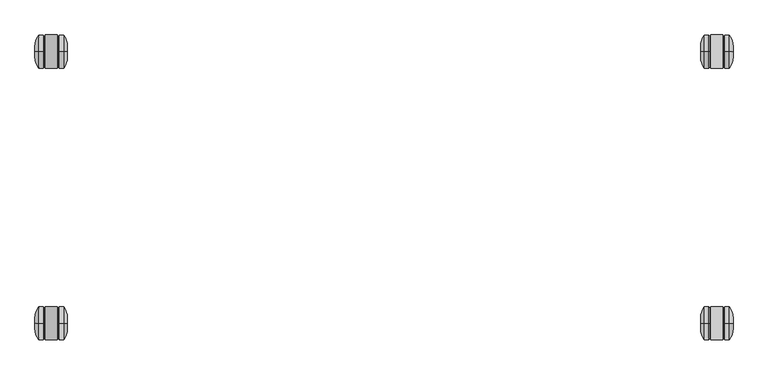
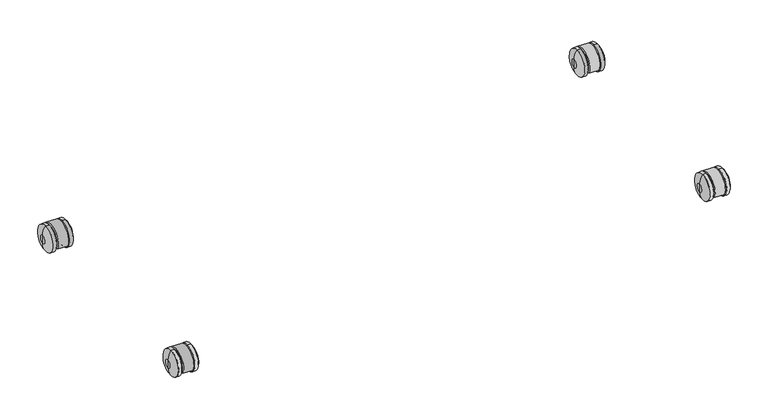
"""IFC4 building model written with IfcOpenShell, lengths in millimetres: furniture geometry, SmithSystem_AM_Table_Education_Elemental_NestAndFold_24D : 24D x 60W."""

from ifc_helpers import new_model, si_unit, point, frame, frame_2d, origin, place, context, project, spatial, polyline, circle_curve, ellipse_curve, trimmed, segment, composite_curve, outline, extrude, source, transform, mapped, element, save
from ifc_brep_helpers import plane_surface, cylinder_surface, revolved_surface, advanced_brep


def furniture_49b3452a(model_context):
    return source(origin(), model_context, "Body", "SolidModel", [
        extrude(outline(composite_curve([segment(trimmed(circle_curve(frame_2d((565.7445313, 34.2990606)), 34.7341), [point((534.3716582, 19.392668))], [point((597.1174044, 19.392668))], False, "CARTESIAN"), True, "CONTINUOUS"), segment(polyline([(597.1174044, 19.392668), (534.3716582, 19.392668)]), True, "CONTINUOUS")], self_intersect=False)), frame((54.6490652, 0.0, 0.0), z_axis=(1.0, 0.0, 0.0), x_axis=(0.0, 1.0, 0.0)), (0.0, 0.0, 1.0), 26.0360428),
        extrude(outline(composite_curve([segment(trimmed(circle_curve(frame_2d((-1.3882813, 34.2990606)), 34.7341), [point((-32.7611544, 19.392668))], [point((29.9845918, 19.392668))], False, "CARTESIAN"), True, "CONTINUOUS"), segment(polyline([(29.9845918, 19.392668), (-32.7611544, 19.392668)]), True, "CONTINUOUS")], self_intersect=False)), frame((54.6490652, 0.0, 0.0), z_axis=(1.0, 0.0, 0.0), x_axis=(0.0, 1.0, 0.0)), (0.0, 0.0, 1.0), 26.0360428),
        extrude(outline(composite_curve([segment(trimmed(circle_curve(frame_2d((565.7445313, 34.2990606)), 34.7341), [point((534.3716582, 19.392668))], [point((597.1174044, 19.392668))], False, "CARTESIAN"), True, "CONTINUOUS"), segment(polyline([(597.1174044, 19.392668), (534.3716582, 19.392668)]), True, "CONTINUOUS")], self_intersect=False)), frame((1443.314892, 0.0, 0.0), z_axis=(1.0, 0.0, 0.0), x_axis=(0.0, 1.0, 0.0)), (0.0, 0.0, 1.0), 26.0360428),
        extrude(outline(composite_curve([segment(trimmed(circle_curve(frame_2d((-1.3882813, 34.2990606)), 34.7341), [point((-32.7611544, 19.392668))], [point((29.9845918, 19.392668))], False, "CARTESIAN"), True, "CONTINUOUS"), segment(polyline([(29.9845918, 19.392668), (-32.7611544, 19.392668)]), True, "CONTINUOUS")], self_intersect=False)), frame((1443.314892, 0.0, 0.0), z_axis=(1.0, 0.0, 0.0), x_axis=(0.0, 1.0, 0.0)), (0.0, 0.0, 1.0), 26.0360428),
        advanced_brep(
        [(1441.7769566, -1.3882813, 34.3697295), (1441.7769566, -1.3882813, 2.4213744), (1441.7769566, -1.3882813, 66.3180847), (1439.6062544, -1.3882813, -0.2937015), (1439.6062544, -1.3882813, 69.0331606), (1430.6015712, -1.3882813, -0.2937015), (1430.6015712, -1.3882813, 69.0331606), (1422.6841685, -1.3882813, 22.7879099), (1422.6841685, -1.3882813, 45.9515492), (1422.6841685, -1.3882813, 34.3697295)],
        [
            (0, 1),
            (1, 2, circle_curve(frame((1441.7769566, -1.3882813, 34.3697295), z_axis=(1.0, 0.0, 0.0), x_axis=(0.0, 0.0, 1.0)), 31.9483552)),
            (2, 0),
            (2, 1, circle_curve(frame((1441.7769566, -1.3882813, 34.3697295), z_axis=(1.0, 0.0, 0.0), x_axis=(0.0, 0.0, 1.0)), 31.9483552)),
            (1, 3),
            (3, 4, circle_curve(frame((1439.6062544, -1.3882813, 34.3697295), z_axis=(1.0, 0.0, 0.0), x_axis=(0.0, 0.0, 1.0)), 34.6634311)),
            (4, 2),
            (4, 3, circle_curve(frame((1439.6062544, -1.3882813, 34.3697295), z_axis=(1.0, 0.0, 0.0), x_axis=(0.0, 0.0, 1.0)), 34.6634311)),
            (3, 5),
            (5, 6, circle_curve(frame((1430.6015712, -1.3882813, 34.3697295), z_axis=(1.0, 0.0, 0.0), x_axis=(0.0, 0.0, 1.0)), 34.6634311)),
            (6, 4),
            (6, 5, circle_curve(frame((1430.6015712, -1.3882813, 34.3697295), z_axis=(1.0, 0.0, 0.0), x_axis=(0.0, 0.0, 1.0)), 34.6634311)),
            (5, 7, circle_curve(frame((1460.2877916, -1.3882813, 22.7879099), z_axis=(0.0, 1.0, 0.0), x_axis=(1.0, 0.0, 0.0)), 37.6036231)),
            (7, 8, circle_curve(frame((1422.6841685, -1.3882813, 34.3697295), z_axis=(1.0, 0.0, 0.0), x_axis=(0.0, 0.0, 1.0)), 11.5818197)),
            (8, 6, circle_curve(frame((1460.2877916, -1.3882813, 45.9515492), z_axis=(0.0, 1.0, 0.0), x_axis=(1.0, 0.0, 0.0)), 37.6036231)),
            (8, 7, circle_curve(frame((1422.6841685, -1.3882813, 34.3697295), z_axis=(1.0, 0.0, 0.0), x_axis=(0.0, 0.0, 1.0)), 11.5818197)),
            (7, 9),
            (9, 8),
        ],
        [
            plane_surface(frame((1441.7769566, -1.3882813, 34.3697295), z_axis=(1.0, 0.0, 0.0), x_axis=(0.0, 0.0, 1.0))),
            revolved_surface(polyline([(1439.6062544, -1.3882813, 69.0331606), (1441.7769566, -1.3882813, 66.3180847)]), (1422.6841685, -1.3882813, 34.3697295), (1.0, 0.0, 0.0)),
            cylinder_surface(frame((1422.6841685, -1.3882813, 34.3697295), z_axis=(1.0, 0.0, 0.0), x_axis=(0.0, 0.0, 1.0)), 34.6634311),
            revolved_surface(trimmed(ellipse_curve(frame((1460.2877916, -1.3882813, 45.9515492), z_axis=(0.0, 1.0, 0.0), x_axis=(1.0, 0.0, 0.0)), 37.6036231, 37.6036231), [point((1422.6841685, -1.3882813, 45.9515492))], [point((1430.6015712, -1.3882813, 69.0331606))], True, "CARTESIAN"), (1422.6841685, -1.3882813, 34.3697295), (1.0, 0.0, 0.0)),
            plane_surface(frame((1422.6841685, -1.3882813, 34.3697295), z_axis=(-1.0, 0.0, 0.0), x_axis=(0.0, 0.0, 1.0))),
        ],
        [
            (0, [[1, 2, 3]]),
            (0, [[-3, 4, -1]]),
            (1, [[5, 6, 7, -2]]),
            (1, [[-7, 8, -5, -4]]),
            (2, [[9, 10, 11, -6]]),
            (2, [[-11, 12, -9, -8]]),
            (3, [[13, 14, 15, -10]]),
            (3, [[-15, 16, -13, -12]]),
            (4, [[17, 18, -14]]),
            (4, [[-18, -17, -16]]),
        ],
    ),
        advanced_brep(
        [(1490.4247373, -1.3882813, 34.3697295), (1490.4247373, -1.3882813, 22.7879099), (1490.4247373, -1.3882813, 45.9515492), (1482.5073346, -1.3882813, -0.2937015), (1482.5073346, -1.3882813, 69.0331606), (1473.5026514, -1.3882813, -0.2937015), (1473.5026514, -1.3882813, 69.0331606), (1471.3319492, -1.3882813, 2.4213744), (1471.3319492, -1.3882813, 66.3180847), (1471.3319492, -1.3882813, 34.3697295)],
        [
            (0, 1),
            (1, 2, circle_curve(frame((1490.4247373, -1.3882813, 34.3697295), z_axis=(1.0, 0.0, 0.0), x_axis=(0.0, 0.0, 1.0)), 11.5818197)),
            (2, 0),
            (2, 1, circle_curve(frame((1490.4247373, -1.3882813, 34.3697295), z_axis=(1.0, 0.0, 0.0), x_axis=(0.0, 0.0, 1.0)), 11.5818197)),
            (1, 3, circle_curve(frame((1452.8211142, -1.3882813, 22.7879099), z_axis=(0.0, 1.0, 0.0), x_axis=(1.0, 0.0, 0.0)), 37.6036231)),
            (3, 4, circle_curve(frame((1482.5073346, -1.3882813, 34.3697295), z_axis=(1.0, 0.0, 0.0), x_axis=(0.0, 0.0, 1.0)), 34.6634311)),
            (4, 2, circle_curve(frame((1452.8211142, -1.3882813, 45.9515492), z_axis=(0.0, 1.0, 0.0), x_axis=(1.0, 0.0, 0.0)), 37.6036231)),
            (4, 3, circle_curve(frame((1482.5073346, -1.3882813, 34.3697295), z_axis=(1.0, 0.0, 0.0), x_axis=(0.0, 0.0, 1.0)), 34.6634311)),
            (3, 5),
            (5, 6, circle_curve(frame((1473.5026514, -1.3882813, 34.3697295), z_axis=(1.0, 0.0, 0.0), x_axis=(0.0, 0.0, 1.0)), 34.6634311)),
            (6, 4),
            (6, 5, circle_curve(frame((1473.5026514, -1.3882813, 34.3697295), z_axis=(1.0, 0.0, 0.0), x_axis=(0.0, 0.0, 1.0)), 34.6634311)),
            (5, 7),
            (7, 8, circle_curve(frame((1471.3319492, -1.3882813, 34.3697295), z_axis=(1.0, 0.0, 0.0), x_axis=(0.0, 0.0, 1.0)), 31.9483552)),
            (8, 6),
            (8, 7, circle_curve(frame((1471.3319492, -1.3882813, 34.3697295), z_axis=(1.0, 0.0, 0.0), x_axis=(0.0, 0.0, 1.0)), 31.9483552)),
            (7, 9),
            (9, 8),
        ],
        [
            plane_surface(frame((1490.4247373, -1.3882813, 34.3697295), z_axis=(1.0, 0.0, 0.0), x_axis=(0.0, 0.0, 1.0))),
            revolved_surface(trimmed(ellipse_curve(frame((1452.8211142, -1.3882813, 45.9515492), z_axis=(0.0, 1.0, 0.0), x_axis=(1.0, 0.0, 0.0)), 37.6036231, 37.6036231), [point((1482.5073346, -1.3882813, 69.0331606))], [point((1490.4247373, -1.3882813, 45.9515492))], True, "CARTESIAN"), (1422.6841685, -1.3882813, 34.3697295), (1.0, 0.0, 0.0)),
            cylinder_surface(frame((1422.6841685, -1.3882813, 34.3697295), z_axis=(1.0, 0.0, 0.0), x_axis=(0.0, 0.0, 1.0)), 34.6634311),
            revolved_surface(polyline([(1471.3319492, -1.3882813, 66.3180847), (1473.5026514, -1.3882813, 69.0331606)]), (1422.6841685, -1.3882813, 34.3697295), (1.0, 0.0, 0.0)),
            plane_surface(frame((1471.3319492, -1.3882813, 34.3697295), z_axis=(-1.0, 0.0, 0.0), x_axis=(0.0, 0.0, 1.0))),
        ],
        [
            (0, [[1, 2, 3]]),
            (0, [[-3, 4, -1]]),
            (1, [[5, 6, 7, -2]]),
            (1, [[-7, 8, -5, -4]]),
            (2, [[9, 10, 11, -6]]),
            (2, [[-11, 12, -9, -8]]),
            (3, [[13, 14, 15, -10]]),
            (3, [[-15, 16, -13, -12]]),
            (4, [[17, 18, -14]]),
            (4, [[-18, -17, -16]]),
        ],
    ),
        advanced_brep(
        [(101.3158315, -1.3882813, 34.3697295), (101.3158315, -1.3882813, 22.7879099), (101.3158315, -1.3882813, 45.9515492), (93.3984288, -1.3882813, -0.2937015), (93.3984288, -1.3882813, 69.0331606), (84.3937456, -1.3882813, -0.2937015), (84.3937456, -1.3882813, 69.0331606), (82.2230434, -1.3882813, 2.4213744), (82.2230434, -1.3882813, 66.3180847), (82.2230434, -1.3882813, 34.3697295)],
        [
            (0, 1),
            (1, 2, circle_curve(frame((101.3158315, -1.3882813, 34.3697295), z_axis=(1.0, 0.0, 0.0), x_axis=(0.0, 0.0, 1.0)), 11.5818197)),
            (2, 0),
            (2, 1, circle_curve(frame((101.3158315, -1.3882813, 34.3697295), z_axis=(1.0, 0.0, 0.0), x_axis=(0.0, 0.0, 1.0)), 11.5818197)),
            (1, 3, circle_curve(frame((63.7122084, -1.3882813, 22.7879099), z_axis=(0.0, 1.0, 0.0), x_axis=(1.0, 0.0, 0.0)), 37.6036231)),
            (3, 4, circle_curve(frame((93.3984288, -1.3882813, 34.3697295), z_axis=(1.0, 0.0, 0.0), x_axis=(0.0, 0.0, 1.0)), 34.6634311)),
            (4, 2, circle_curve(frame((63.7122084, -1.3882813, 45.9515492), z_axis=(0.0, 1.0, 0.0), x_axis=(1.0, 0.0, 0.0)), 37.6036231)),
            (4, 3, circle_curve(frame((93.3984288, -1.3882813, 34.3697295), z_axis=(1.0, 0.0, 0.0), x_axis=(0.0, 0.0, 1.0)), 34.6634311)),
            (3, 5),
            (5, 6, circle_curve(frame((84.3937456, -1.3882813, 34.3697295), z_axis=(1.0, 0.0, 0.0), x_axis=(0.0, 0.0, 1.0)), 34.6634311)),
            (6, 4),
            (6, 5, circle_curve(frame((84.3937456, -1.3882813, 34.3697295), z_axis=(1.0, 0.0, 0.0), x_axis=(0.0, 0.0, 1.0)), 34.6634311)),
            (5, 7),
            (7, 8, circle_curve(frame((82.2230434, -1.3882813, 34.3697295), z_axis=(1.0, 0.0, 0.0), x_axis=(0.0, 0.0, 1.0)), 31.9483552)),
            (8, 6),
            (8, 7, circle_curve(frame((82.2230434, -1.3882813, 34.3697295), z_axis=(1.0, 0.0, 0.0), x_axis=(0.0, 0.0, 1.0)), 31.9483552)),
            (7, 9),
            (9, 8),
        ],
        [
            plane_surface(frame((101.3158315, -1.3882813, 34.3697295), z_axis=(1.0, 0.0, 0.0), x_axis=(0.0, 0.0, 1.0))),
            revolved_surface(trimmed(ellipse_curve(frame((63.7122084, -1.3882813, 45.9515492), z_axis=(0.0, 1.0, 0.0), x_axis=(1.0, 0.0, 0.0)), 37.6036231, 37.6036231), [point((93.3984288, -1.3882813, 69.0331606))], [point((101.3158315, -1.3882813, 45.9515492))], True, "CARTESIAN"), (1422.6841685, -1.3882813, 34.3697295), (1.0, 0.0, 0.0)),
            cylinder_surface(frame((1422.6841685, -1.3882813, 34.3697295), z_axis=(1.0, 0.0, 0.0), x_axis=(0.0, 0.0, 1.0)), 34.6634311),
            revolved_surface(polyline([(82.2230434, -1.3882813, 66.3180847), (84.3937456, -1.3882813, 69.0331606)]), (1422.6841685, -1.3882813, 34.3697295), (1.0, 0.0, 0.0)),
            plane_surface(frame((82.2230434, -1.3882813, 34.3697295), z_axis=(-1.0, 0.0, 0.0), x_axis=(0.0, 0.0, 1.0))),
        ],
        [
            (0, [[1, 2, 3]]),
            (0, [[-3, 4, -1]]),
            (1, [[5, 6, 7, -2]]),
            (1, [[-7, 8, -5, -4]]),
            (2, [[9, 10, 11, -6]]),
            (2, [[-11, 12, -9, -8]]),
            (3, [[13, 14, 15, -10]]),
            (3, [[-15, 16, -13, -12]]),
            (4, [[17, 18, -14]]),
            (4, [[-18, -17, -16]]),
        ],
    ),
        advanced_brep(
        [(52.6680508, -1.3882813, 34.3697295), (52.6680508, -1.3882813, 2.4213744), (52.6680508, -1.3882813, 66.3180847), (50.4973486, -1.3882813, -0.2937015), (50.4973486, -1.3882813, 69.0331606), (41.4926654, -1.3882813, -0.2937015), (41.4926654, -1.3882813, 69.0331606), (33.5752627, -1.3882813, 22.7879099), (33.5752627, -1.3882813, 45.9515492), (33.5752627, -1.3882813, 34.3697295)],
        [
            (0, 1),
            (1, 2, circle_curve(frame((52.6680508, -1.3882813, 34.3697295), z_axis=(1.0, 0.0, 0.0), x_axis=(0.0, 0.0, 1.0)), 31.9483552)),
            (2, 0),
            (2, 1, circle_curve(frame((52.6680508, -1.3882813, 34.3697295), z_axis=(1.0, 0.0, 0.0), x_axis=(0.0, 0.0, 1.0)), 31.9483552)),
            (1, 3),
            (3, 4, circle_curve(frame((50.4973486, -1.3882813, 34.3697295), z_axis=(1.0, 0.0, 0.0), x_axis=(0.0, 0.0, 1.0)), 34.6634311)),
            (4, 2),
            (4, 3, circle_curve(frame((50.4973486, -1.3882813, 34.3697295), z_axis=(1.0, 0.0, 0.0), x_axis=(0.0, 0.0, 1.0)), 34.6634311)),
            (3, 5),
            (5, 6, circle_curve(frame((41.4926654, -1.3882813, 34.3697295), z_axis=(1.0, 0.0, 0.0), x_axis=(0.0, 0.0, 1.0)), 34.6634311)),
            (6, 4),
            (6, 5, circle_curve(frame((41.4926654, -1.3882813, 34.3697295), z_axis=(1.0, 0.0, 0.0), x_axis=(0.0, 0.0, 1.0)), 34.6634311)),
            (5, 7, circle_curve(frame((71.1788858, -1.3882813, 22.7879099), z_axis=(0.0, 1.0, 0.0), x_axis=(1.0, 0.0, 0.0)), 37.6036231)),
            (7, 8, circle_curve(frame((33.5752627, -1.3882813, 34.3697295), z_axis=(1.0, 0.0, 0.0), x_axis=(0.0, 0.0, 1.0)), 11.5818197)),
            (8, 6, circle_curve(frame((71.1788858, -1.3882813, 45.9515492), z_axis=(0.0, 1.0, 0.0), x_axis=(1.0, 0.0, 0.0)), 37.6036231)),
            (8, 7, circle_curve(frame((33.5752627, -1.3882813, 34.3697295), z_axis=(1.0, 0.0, 0.0), x_axis=(0.0, 0.0, 1.0)), 11.5818197)),
            (7, 9),
            (9, 8),
        ],
        [
            plane_surface(frame((52.6680508, -1.3882813, 34.3697295), z_axis=(1.0, 0.0, 0.0), x_axis=(0.0, 0.0, 1.0))),
            revolved_surface(polyline([(50.4973486, -1.3882813, 69.0331606), (52.6680508, -1.3882813, 66.3180847)]), (1422.6841685, -1.3882813, 34.3697295), (1.0, 0.0, 0.0)),
            cylinder_surface(frame((1422.6841685, -1.3882813, 34.3697295), z_axis=(1.0, 0.0, 0.0), x_axis=(0.0, 0.0, 1.0)), 34.6634311),
            revolved_surface(trimmed(ellipse_curve(frame((71.1788858, -1.3882813, 45.9515492), z_axis=(0.0, 1.0, 0.0), x_axis=(1.0, 0.0, 0.0)), 37.6036231, 37.6036231), [point((33.5752627, -1.3882813, 45.9515492))], [point((41.4926654, -1.3882813, 69.0331606))], True, "CARTESIAN"), (1422.6841685, -1.3882813, 34.3697295), (1.0, 0.0, 0.0)),
            plane_surface(frame((33.5752627, -1.3882813, 34.3697295), z_axis=(-1.0, 0.0, 0.0), x_axis=(0.0, 0.0, 1.0))),
        ],
        [
            (0, [[1, 2, 3]]),
            (0, [[-3, 4, -1]]),
            (1, [[5, 6, 7, -2]]),
            (1, [[-7, 8, -5, -4]]),
            (2, [[9, 10, 11, -6]]),
            (2, [[-11, 12, -9, -8]]),
            (3, [[13, 14, 15, -10]]),
            (3, [[-15, 16, -13, -12]]),
            (4, [[17, 18, -14]]),
            (4, [[-18, -17, -16]]),
        ],
    ),
        advanced_brep(
        [(1441.7769566, 565.7453125, 2.4213744), (1441.7769566, 565.7453125, 34.3697295), (1441.7769566, 565.7453125, 66.3180847), (1439.6062544, 565.7453125, -0.2937015), (1439.6062544, 565.7453125, 69.0331606), (1430.6015712, 565.7453125, -0.2937015), (1430.6015712, 565.7453125, 69.0331606), (1422.6841685, 565.7453125, 22.7879099), (1422.6841685, 565.7453125, 45.9515492), (1422.6841685, 565.7453125, 34.3697295)],
        [
            (0, 1),
            (1, 2),
            (2, 0, circle_curve(frame((1441.7769566, 565.7453125, 34.3697295), z_axis=(1.0, 0.0, 0.0), x_axis=(0.0, 0.0, 1.0)), 31.9483552)),
            (0, 2, circle_curve(frame((1441.7769566, 565.7453125, 34.3697295), z_axis=(1.0, 0.0, 0.0), x_axis=(0.0, 0.0, 1.0)), 31.9483552)),
            (3, 0),
            (2, 4),
            (4, 3, circle_curve(frame((1439.6062544, 565.7453125, 34.3697295), z_axis=(1.0, 0.0, 0.0), x_axis=(0.0, 0.0, 1.0)), 34.6634311)),
            (3, 4, circle_curve(frame((1439.6062544, 565.7453125, 34.3697295), z_axis=(1.0, 0.0, 0.0), x_axis=(0.0, 0.0, 1.0)), 34.6634311)),
            (5, 3),
            (4, 6),
            (6, 5, circle_curve(frame((1430.6015712, 565.7453125, 34.3697295), z_axis=(1.0, 0.0, 0.0), x_axis=(0.0, 0.0, 1.0)), 34.6634311)),
            (5, 6, circle_curve(frame((1430.6015712, 565.7453125, 34.3697295), z_axis=(1.0, 0.0, 0.0), x_axis=(0.0, 0.0, 1.0)), 34.6634311)),
            (7, 5, circle_curve(frame((1460.2877916, 565.7453125, 22.7879099), z_axis=(0.0, -1.0, 0.0), x_axis=(1.0, 0.0, 0.0)), 37.6036231)),
            (6, 8, circle_curve(frame((1460.2877916, 565.7453125, 45.9515492), z_axis=(0.0, -1.0, 0.0), x_axis=(1.0, 0.0, 0.0)), 37.6036231)),
            (8, 7, circle_curve(frame((1422.6841685, 565.7453125, 34.3697295), z_axis=(1.0, 0.0, 0.0), x_axis=(0.0, 0.0, 1.0)), 11.5818197)),
            (7, 8, circle_curve(frame((1422.6841685, 565.7453125, 34.3697295), z_axis=(1.0, 0.0, 0.0), x_axis=(0.0, 0.0, 1.0)), 11.5818197)),
            (9, 7),
            (8, 9),
        ],
        [
            plane_surface(frame((1441.7769566, 565.7453125, 34.3697295), z_axis=(1.0, 0.0, 0.0), x_axis=(0.0, 0.0, 1.0))),
            revolved_surface(polyline([(1441.7769566, 565.7453125, 66.3180847), (1439.6062544, 565.7453125, 69.0331606)]), (1422.6841685, 565.7453125, 34.3697295), (-1.0, 0.0, 0.0)),
            cylinder_surface(frame((1422.6841685, 565.7453125, 34.3697295), z_axis=(-1.0, 0.0, 0.0), x_axis=(0.0, 0.0, 1.0)), 34.6634311),
            revolved_surface(trimmed(ellipse_curve(frame((1460.2877916, 565.7453125, 45.9515492), z_axis=(0.0, -1.0, 0.0), x_axis=(1.0, 0.0, 0.0)), 37.6036231, 37.6036231), [point((1430.6015712, 565.7453125, 69.0331606))], [point((1422.6841685, 565.7453125, 45.9515492))], True, "CARTESIAN"), (1422.6841685, 565.7453125, 34.3697295), (-1.0, 0.0, 0.0)),
            plane_surface(frame((1422.6841685, 565.7453125, 34.3697295), z_axis=(-1.0, 0.0, 0.0), x_axis=(0.0, 0.0, 1.0))),
        ],
        [
            (0, [[1, 2, 3]]),
            (0, [[-2, -1, 4]]),
            (1, [[5, -3, 6, 7]]),
            (1, [[-6, -4, -5, 8]]),
            (2, [[9, -7, 10, 11]]),
            (2, [[-10, -8, -9, 12]]),
            (3, [[13, -11, 14, 15]]),
            (3, [[-14, -12, -13, 16]]),
            (4, [[17, -15, 18]]),
            (4, [[-18, -16, -17]]),
        ],
    ),
        advanced_brep(
        [(1490.4247373, 565.7453125, 22.7879099), (1490.4247373, 565.7453125, 34.3697295), (1490.4247373, 565.7453125, 45.9515492), (1482.5073346, 565.7453125, -0.2937015), (1482.5073346, 565.7453125, 69.0331606), (1473.5026514, 565.7453125, -0.2937015), (1473.5026514, 565.7453125, 69.0331606), (1471.3319492, 565.7453125, 2.4213744), (1471.3319492, 565.7453125, 66.3180847), (1471.3319492, 565.7453125, 34.3697295)],
        [
            (0, 1),
            (1, 2),
            (2, 0, circle_curve(frame((1490.4247373, 565.7453125, 34.3697295), z_axis=(1.0, 0.0, 0.0), x_axis=(0.0, 0.0, 1.0)), 11.5818197)),
            (0, 2, circle_curve(frame((1490.4247373, 565.7453125, 34.3697295), z_axis=(1.0, 0.0, 0.0), x_axis=(0.0, 0.0, 1.0)), 11.5818197)),
            (3, 0, circle_curve(frame((1452.8211142, 565.7453125, 22.7879099), z_axis=(0.0, -1.0, 0.0), x_axis=(1.0, 0.0, 0.0)), 37.6036231)),
            (2, 4, circle_curve(frame((1452.8211142, 565.7453125, 45.9515492), z_axis=(0.0, -1.0, 0.0), x_axis=(1.0, 0.0, 0.0)), 37.6036231)),
            (4, 3, circle_curve(frame((1482.5073346, 565.7453125, 34.3697295), z_axis=(1.0, 0.0, 0.0), x_axis=(0.0, 0.0, 1.0)), 34.6634311)),
            (3, 4, circle_curve(frame((1482.5073346, 565.7453125, 34.3697295), z_axis=(1.0, 0.0, 0.0), x_axis=(0.0, 0.0, 1.0)), 34.6634311)),
            (5, 3),
            (4, 6),
            (6, 5, circle_curve(frame((1473.5026514, 565.7453125, 34.3697295), z_axis=(1.0, 0.0, 0.0), x_axis=(0.0, 0.0, 1.0)), 34.6634311)),
            (5, 6, circle_curve(frame((1473.5026514, 565.7453125, 34.3697295), z_axis=(1.0, 0.0, 0.0), x_axis=(0.0, 0.0, 1.0)), 34.6634311)),
            (7, 5),
            (6, 8),
            (8, 7, circle_curve(frame((1471.3319492, 565.7453125, 34.3697295), z_axis=(1.0, 0.0, 0.0), x_axis=(0.0, 0.0, 1.0)), 31.9483552)),
            (7, 8, circle_curve(frame((1471.3319492, 565.7453125, 34.3697295), z_axis=(1.0, 0.0, 0.0), x_axis=(0.0, 0.0, 1.0)), 31.9483552)),
            (9, 7),
            (8, 9),
        ],
        [
            plane_surface(frame((1490.4247373, 565.7453125, 34.3697295), z_axis=(1.0, 0.0, 0.0), x_axis=(0.0, 0.0, 1.0))),
            revolved_surface(trimmed(ellipse_curve(frame((1452.8211142, 565.7453125, 45.9515492), z_axis=(0.0, -1.0, 0.0), x_axis=(1.0, 0.0, 0.0)), 37.6036231, 37.6036231), [point((1490.4247373, 565.7453125, 45.9515492))], [point((1482.5073346, 565.7453125, 69.0331606))], True, "CARTESIAN"), (1422.6841685, 565.7453125, 34.3697295), (-1.0, 0.0, 0.0)),
            cylinder_surface(frame((1422.6841685, 565.7453125, 34.3697295), z_axis=(-1.0, 0.0, 0.0), x_axis=(0.0, 0.0, 1.0)), 34.6634311),
            revolved_surface(polyline([(1473.5026514, 565.7453125, 69.0331606), (1471.3319492, 565.7453125, 66.3180847)]), (1422.6841685, 565.7453125, 34.3697295), (-1.0, 0.0, 0.0)),
            plane_surface(frame((1471.3319492, 565.7453125, 34.3697295), z_axis=(-1.0, 0.0, 0.0), x_axis=(0.0, 0.0, 1.0))),
        ],
        [
            (0, [[1, 2, 3]]),
            (0, [[-2, -1, 4]]),
            (1, [[5, -3, 6, 7]]),
            (1, [[-6, -4, -5, 8]]),
            (2, [[9, -7, 10, 11]]),
            (2, [[-10, -8, -9, 12]]),
            (3, [[13, -11, 14, 15]]),
            (3, [[-14, -12, -13, 16]]),
            (4, [[17, -15, 18]]),
            (4, [[-18, -16, -17]]),
        ],
    ),
        advanced_brep(
        [(101.3158315, 565.7453125, 22.7879099), (101.3158315, 565.7453125, 34.3697295), (101.3158315, 565.7453125, 45.9515492), (93.3984288, 565.7453125, -0.2937015), (93.3984288, 565.7453125, 69.0331606), (84.3937456, 565.7453125, -0.2937015), (84.3937456, 565.7453125, 69.0331606), (82.2230434, 565.7453125, 2.4213744), (82.2230434, 565.7453125, 66.3180847), (82.2230434, 565.7453125, 34.3697295)],
        [
            (0, 1),
            (1, 2),
            (2, 0, circle_curve(frame((101.3158315, 565.7453125, 34.3697295), z_axis=(1.0, 0.0, 0.0), x_axis=(0.0, 0.0, 1.0)), 11.5818197)),
            (0, 2, circle_curve(frame((101.3158315, 565.7453125, 34.3697295), z_axis=(1.0, 0.0, 0.0), x_axis=(0.0, 0.0, 1.0)), 11.5818197)),
            (3, 0, circle_curve(frame((63.7122084, 565.7453125, 22.7879099), z_axis=(0.0, -1.0, 0.0), x_axis=(1.0, 0.0, 0.0)), 37.6036231)),
            (2, 4, circle_curve(frame((63.7122084, 565.7453125, 45.9515492), z_axis=(0.0, -1.0, 0.0), x_axis=(1.0, 0.0, 0.0)), 37.6036231)),
            (4, 3, circle_curve(frame((93.3984288, 565.7453125, 34.3697295), z_axis=(1.0, 0.0, 0.0), x_axis=(0.0, 0.0, 1.0)), 34.6634311)),
            (3, 4, circle_curve(frame((93.3984288, 565.7453125, 34.3697295), z_axis=(1.0, 0.0, 0.0), x_axis=(0.0, 0.0, 1.0)), 34.6634311)),
            (5, 3),
            (4, 6),
            (6, 5, circle_curve(frame((84.3937456, 565.7453125, 34.3697295), z_axis=(1.0, 0.0, 0.0), x_axis=(0.0, 0.0, 1.0)), 34.6634311)),
            (5, 6, circle_curve(frame((84.3937456, 565.7453125, 34.3697295), z_axis=(1.0, 0.0, 0.0), x_axis=(0.0, 0.0, 1.0)), 34.6634311)),
            (7, 5),
            (6, 8),
            (8, 7, circle_curve(frame((82.2230434, 565.7453125, 34.3697295), z_axis=(1.0, 0.0, 0.0), x_axis=(0.0, 0.0, 1.0)), 31.9483552)),
            (7, 8, circle_curve(frame((82.2230434, 565.7453125, 34.3697295), z_axis=(1.0, 0.0, 0.0), x_axis=(0.0, 0.0, 1.0)), 31.9483552)),
            (9, 7),
            (8, 9),
        ],
        [
            plane_surface(frame((101.3158315, 565.7453125, 34.3697295), z_axis=(1.0, 0.0, 0.0), x_axis=(0.0, 0.0, 1.0))),
            revolved_surface(trimmed(ellipse_curve(frame((63.7122084, 565.7453125, 45.9515492), z_axis=(0.0, -1.0, 0.0), x_axis=(1.0, 0.0, 0.0)), 37.6036231, 37.6036231), [point((101.3158315, 565.7453125, 45.9515492))], [point((93.3984288, 565.7453125, 69.0331606))], True, "CARTESIAN"), (1422.6841685, 565.7453125, 34.3697295), (-1.0, 0.0, 0.0)),
            cylinder_surface(frame((1422.6841685, 565.7453125, 34.3697295), z_axis=(-1.0, 0.0, 0.0), x_axis=(0.0, 0.0, 1.0)), 34.6634311),
            revolved_surface(polyline([(84.3937456, 565.7453125, 69.0331606), (82.2230434, 565.7453125, 66.3180847)]), (1422.6841685, 565.7453125, 34.3697295), (-1.0, 0.0, 0.0)),
            plane_surface(frame((82.2230434, 565.7453125, 34.3697295), z_axis=(-1.0, 0.0, 0.0), x_axis=(0.0, 0.0, 1.0))),
        ],
        [
            (0, [[1, 2, 3]]),
            (0, [[-2, -1, 4]]),
            (1, [[5, -3, 6, 7]]),
            (1, [[-6, -4, -5, 8]]),
            (2, [[9, -7, 10, 11]]),
            (2, [[-10, -8, -9, 12]]),
            (3, [[13, -11, 14, 15]]),
            (3, [[-14, -12, -13, 16]]),
            (4, [[17, -15, 18]]),
            (4, [[-18, -16, -17]]),
        ],
    ),
        advanced_brep(
        [(52.6680508, 565.7453125, 2.4213744), (52.6680508, 565.7453125, 34.3697295), (52.6680508, 565.7453125, 66.3180847), (50.4973486, 565.7453125, -0.2937015), (50.4973486, 565.7453125, 69.0331606), (41.4926654, 565.7453125, -0.2937015), (41.4926654, 565.7453125, 69.0331606), (33.5752627, 565.7453125, 22.7879099), (33.5752627, 565.7453125, 45.9515492), (33.5752627, 565.7453125, 34.3697295)],
        [
            (0, 1),
            (1, 2),
            (2, 0, circle_curve(frame((52.6680508, 565.7453125, 34.3697295), z_axis=(1.0, 0.0, 0.0), x_axis=(0.0, 0.0, 1.0)), 31.9483552)),
            (0, 2, circle_curve(frame((52.6680508, 565.7453125, 34.3697295), z_axis=(1.0, 0.0, 0.0), x_axis=(0.0, 0.0, 1.0)), 31.9483552)),
            (3, 0),
            (2, 4),
            (4, 3, circle_curve(frame((50.4973486, 565.7453125, 34.3697295), z_axis=(1.0, 0.0, 0.0), x_axis=(0.0, 0.0, 1.0)), 34.6634311)),
            (3, 4, circle_curve(frame((50.4973486, 565.7453125, 34.3697295), z_axis=(1.0, 0.0, 0.0), x_axis=(0.0, 0.0, 1.0)), 34.6634311)),
            (5, 3),
            (4, 6),
            (6, 5, circle_curve(frame((41.4926654, 565.7453125, 34.3697295), z_axis=(1.0, 0.0, 0.0), x_axis=(0.0, 0.0, 1.0)), 34.6634311)),
            (5, 6, circle_curve(frame((41.4926654, 565.7453125, 34.3697295), z_axis=(1.0, 0.0, 0.0), x_axis=(0.0, 0.0, 1.0)), 34.6634311)),
            (7, 5, circle_curve(frame((71.1788858, 565.7453125, 22.7879099), z_axis=(0.0, -1.0, 0.0), x_axis=(1.0, 0.0, 0.0)), 37.6036231)),
            (6, 8, circle_curve(frame((71.1788858, 565.7453125, 45.9515492), z_axis=(0.0, -1.0, 0.0), x_axis=(1.0, 0.0, 0.0)), 37.6036231)),
            (8, 7, circle_curve(frame((33.5752627, 565.7453125, 34.3697295), z_axis=(1.0, 0.0, 0.0), x_axis=(0.0, 0.0, 1.0)), 11.5818197)),
            (7, 8, circle_curve(frame((33.5752627, 565.7453125, 34.3697295), z_axis=(1.0, 0.0, 0.0), x_axis=(0.0, 0.0, 1.0)), 11.5818197)),
            (9, 7),
            (8, 9),
        ],
        [
            plane_surface(frame((52.6680508, 565.7453125, 34.3697295), z_axis=(1.0, 0.0, 0.0), x_axis=(0.0, 0.0, 1.0))),
            revolved_surface(polyline([(52.6680508, 565.7453125, 66.3180847), (50.4973486, 565.7453125, 69.0331606)]), (1422.6841685, 565.7453125, 34.3697295), (-1.0, 0.0, 0.0)),
            cylinder_surface(frame((1422.6841685, 565.7453125, 34.3697295), z_axis=(-1.0, 0.0, 0.0), x_axis=(0.0, 0.0, 1.0)), 34.6634311),
            revolved_surface(trimmed(ellipse_curve(frame((71.1788858, 565.7453125, 45.9515492), z_axis=(0.0, -1.0, 0.0), x_axis=(1.0, 0.0, 0.0)), 37.6036231, 37.6036231), [point((41.4926654, 565.7453125, 69.0331606))], [point((33.5752627, 565.7453125, 45.9515492))], True, "CARTESIAN"), (1422.6841685, 565.7453125, 34.3697295), (-1.0, 0.0, 0.0)),
            plane_surface(frame((33.5752627, 565.7453125, 34.3697295), z_axis=(-1.0, 0.0, 0.0), x_axis=(0.0, 0.0, 1.0))),
        ],
        [
            (0, [[1, 2, 3]]),
            (0, [[-2, -1, 4]]),
            (1, [[5, -3, 6, 7]]),
            (1, [[-6, -4, -5, 8]]),
            (2, [[9, -7, 10, 11]]),
            (2, [[-10, -8, -9, 12]]),
            (3, [[13, -11, 14, 15]]),
            (3, [[-14, -12, -13, 16]]),
            (4, [[17, -15, 18]]),
            (4, [[-18, -16, -17]]),
        ],
    ),
    ])


if __name__ == "__main__":
    model = new_model("IFC4")
    model_context = context("Model", 3, world=origin())
    ifc_project = project(units=[si_unit("LENGTHUNIT", "METRE", prefix="MILLI")], contexts=[model_context])
    site = spatial("IfcSite", under=ifc_project)
    building = spatial("IfcBuilding", under=site)
    placement = place(None, origin())
    furniture_shape = furniture_49b3452a(model_context)
    element("IfcFurniture", 1, ObjectType="SmithSystem_AM_Table_Education_Elemental_NestAndFold_24D : 24D x 60W", at=placement, inside=building, context=model_context, shape_type="MappedRepresentation", body=[
        mapped(furniture_shape, transform((0.0, 0.0, 0.0), x_axis=(1.0, 0.0, 0.0), y_axis=(0.0, 1.0, 0.0), z_axis=(0.0, 0.0, 1.0))),
    ])
    save(model, "model.ifc")
